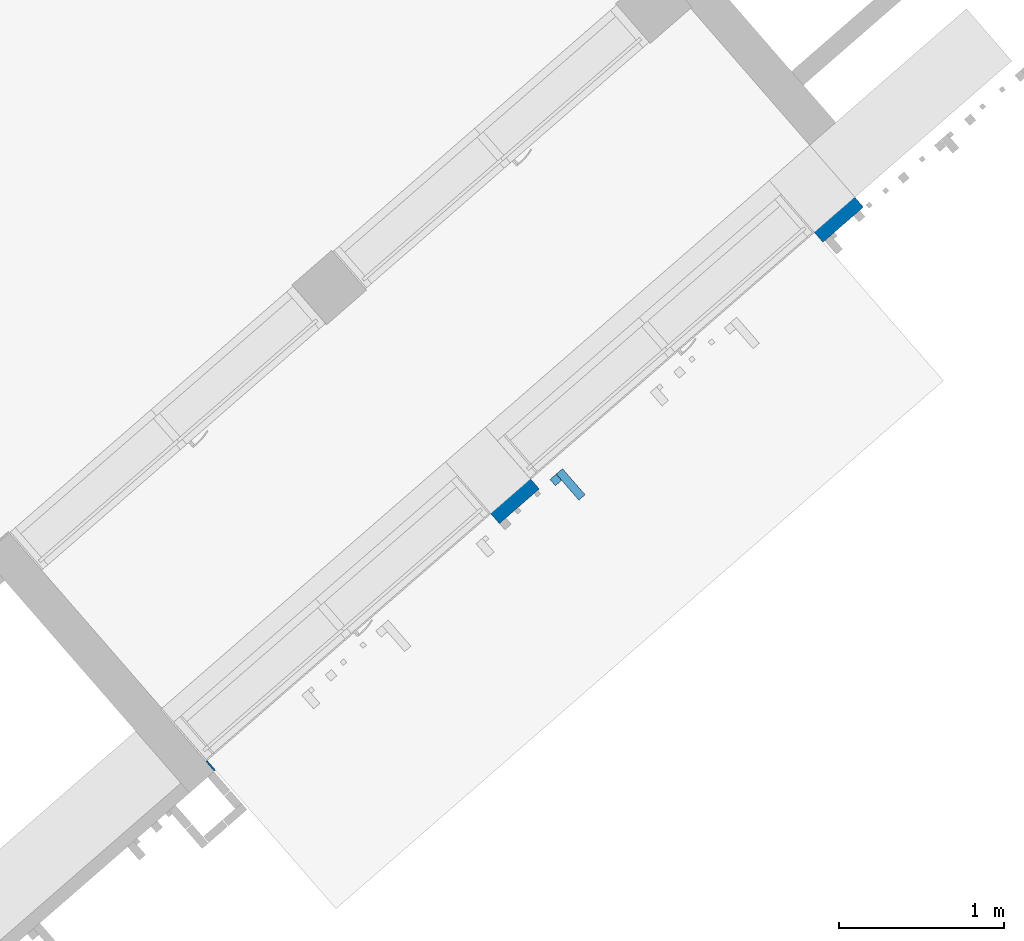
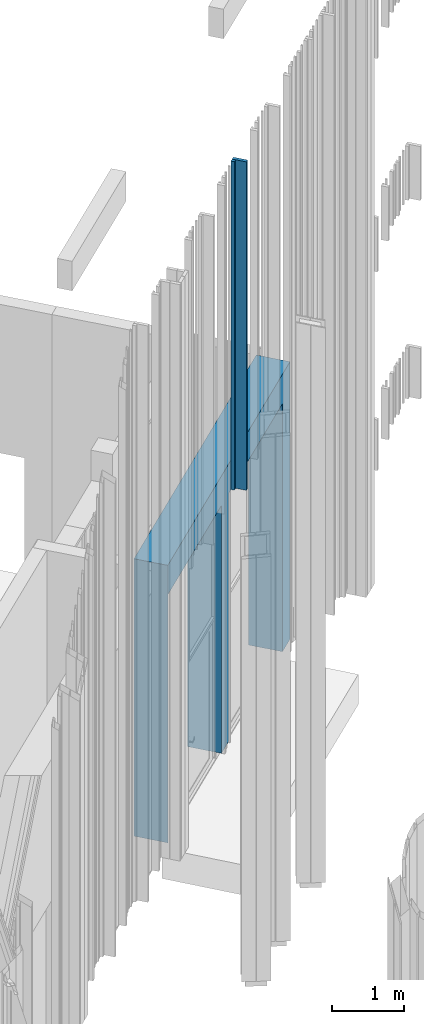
# One storey, part 206 of 390: 3 walls.
"""IFC2X3 building model written with IfcOpenShell, lengths in millimetres."""

from ifc_helpers import new_model, entity, si_unit, converted_unit, derived_unit, money_unit, direction, frame, origin_with_axes, place, context, subcontext, project, spatial, faceted_brep, material, material_list, type_object, element, save


model = new_model("IFC2X3")

# Units and contexts
model_context = context("Model", 3, precision=1e-05, world=origin_with_axes(), true_north=direction((0.0, 1.0)))
body_context = subcontext(model_context, "Body", "Model", "MODEL_VIEW")
ifc_project = project(units=[si_unit("LENGTHUNIT", "METRE", prefix="MILLI"), si_unit("AREAUNIT", "SQUARE_METRE"), si_unit("VOLUMEUNIT", "CUBIC_METRE"), converted_unit("PLANEANGLEUNIT", "DEGREE", entity("IfcPlaneAngleMeasure", 0.0174532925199), si_unit("PLANEANGLEUNIT", "RADIAN"), dimensions=[0, 0, 0, 0, 0, 0, 0]), si_unit("SOLIDANGLEUNIT", "STERADIAN"), money_unit("EUR"), converted_unit("TIMEUNIT", "Year", entity("IfcTimeMeasure", 31556926.0), si_unit("TIMEUNIT", "SECOND"), dimensions=[0, 0, 1, 0, 0, 0, 0]), si_unit("MASSUNIT", "GRAM", prefix="KILO"), si_unit("THERMODYNAMICTEMPERATUREUNIT", "DEGREE_CELSIUS"), si_unit("LUMINOUSINTENSITYUNIT", "LUMEN"), si_unit("ENERGYUNIT", "JOULE", prefix="MEGA"), derived_unit("THERMALCONDUCTANCEUNIT", [(si_unit("POWERUNIT", "WATT"), 1), (si_unit("LENGTHUNIT", "METRE"), -1), (si_unit("THERMODYNAMICTEMPERATUREUNIT", "KELVIN"), -1)]), derived_unit("SPECIFICHEATCAPACITYUNIT", [(si_unit("ENERGYUNIT", "JOULE"), 1), (si_unit("MASSUNIT", "GRAM", prefix="KILO"), -1), (si_unit("THERMODYNAMICTEMPERATUREUNIT", "KELVIN"), -1)]), derived_unit("MASSDENSITYUNIT", [(si_unit("MASSUNIT", "GRAM", prefix="KILO"), 1), (si_unit("VOLUMEUNIT", "CUBIC_METRE"), -1)])], contexts=[model_context])

# Site, building, storey
site_placement = place(None, origin_with_axes())
site = spatial("IfcSite", under=ifc_project, at=site_placement, Name="Site", CompositionType="ELEMENT")
building_placement = place(site_placement, origin_with_axes())
building = spatial("IfcBuilding", under=site, at=building_placement, Name="Building", CompositionType="ELEMENT")
storey_placement = place(building_placement, origin_with_axes())
storey = spatial("IfcBuildingStorey", under=building, at=storey_placement, Name="1 korrus", CompositionType="ELEMENT", Elevation=0.0)

# Walls
ifc_material_1 = material(Name="Puit - Konstruktsioon")
ifc_material_2 = material(Name="Õhkvahe")
ifc_material_3 = material(Name="Soojustus - Plastik Kõva")
ifc_material_4 = material(Name="Raudbetoon - Toode")
ifc_material_5 = material(Name="Krohv - Lubjakivi")
ifc_material_list = material_list([ifc_material_1, ifc_material_1, ifc_material_2, ifc_material_3, ifc_material_3, ifc_material_4, ifc_material_5])
wall_type_1 = type_object("IfcWallType", Name="VS-01", PredefinedType="NOTDEFINED")
wall_1_placement = place(storey_placement, frame((148483.867538, 74397.3302658, 100.0), z_axis=(0.0, 0.0, 1.0), x_axis=(-0.754709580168, -0.656059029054, 0.0)))
element("IfcWall", 1, at=wall_1_placement, inside=storey, type_object=wall_type_1, material=ifc_material_list, Name="VS-01", context=body_context, shape_type="Brep", body=[
    faceted_brep([(2605.00011329, 497.0, 0.0), (2605.00011329, 497.0, 4200.0), (325.000116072, 497.0, 4200.0), (325.000116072, 497.0, 0.0), (0.0, 497.0, 0.0), (0.0, 497.0, 4700.0), (5214.99989965, 497.0, 4700.0), (5214.99989965, 497.0, 0.0), (5204.99991344, 497.0, 0.0), (5204.99991344, 497.0, 4200.0), (2925.00011452, 497.0, 4200.0), (2925.00011452, 497.0, 0.0), (2605.00011329, 475.0, 0.0), (2605.00011329, 475.0, 4200.0), (325.000116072, 475.0, 4200.0), (325.000116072, 475.0, 0.0), (0.0, 475.0, 0.0), (0.0, 475.0, 4700.0), (5214.99990026, 475.0, 4700.0), (5214.99990026, 475.0, 0.0), (5204.99991344, 475.0, 0.0), (5204.99991344, 475.0, 4200.0), (2925.00011452, 475.0, 4200.0), (2925.00011452, 475.0, 0.0)], [[[0, 1, 2, 3, 4, 5, 6, 7, 8, 9, 10, 11]], [[1, 0, 12, 13]], [[2, 1, 13, 14]], [[3, 2, 14, 15]], [[3, 15, 16, 4]], [[17, 5, 4, 16]], [[17, 18, 6, 5]], [[18, 19, 7, 6]], [[8, 7, 19, 20]], [[8, 20, 21, 9]], [[9, 21, 22, 10]], [[10, 22, 23, 11]], [[12, 0, 11, 23]], [[13, 12, 23, 22, 21, 20, 19, 18, 17, 16, 15, 14]]]),
    faceted_brep([(2605.00011329, 475.0, 0.0), (2605.00011329, 475.0, 4200.0), (325.000116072, 475.0, 4200.0), (325.000116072, 475.0, 0.0), (0.0, 475.0, 0.0), (0.0, 475.0, 4700.0), (5214.99990026, 475.0, 4700.0), (5214.99990026, 475.0, 0.0), (5204.99991344, 475.0, 0.0), (5204.99991344, 475.0, 4200.0), (2925.00011452, 475.0, 4200.0), (2925.00011452, 475.0, 0.0), (2605.00011329, 455.0, 0.0), (2605.00011329, 455.0, 4200.0), (325.000116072, 455.0, 4200.0), (325.000116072, 455.0, 0.0), (0.0, 455.0, 0.0), (0.0, 455.0, 4700.0), (5214.99990081, 455.0, 4700.0), (5214.99990081, 455.0, 0.0), (5204.99991344, 455.0, 0.0), (5204.99991344, 455.0, 4200.0), (2925.00011452, 455.0, 4200.0), (2925.00011452, 455.0, 0.0)], [[[0, 1, 2, 3, 4, 5, 6, 7, 8, 9, 10, 11]], [[1, 0, 12, 13]], [[2, 1, 13, 14]], [[3, 2, 14, 15]], [[3, 15, 16, 4]], [[17, 5, 4, 16]], [[17, 18, 6, 5]], [[18, 19, 7, 6]], [[8, 7, 19, 20]], [[8, 20, 21, 9]], [[9, 21, 22, 10]], [[10, 22, 23, 11]], [[12, 0, 11, 23]], [[13, 12, 23, 22, 21, 20, 19, 18, 17, 16, 15, 14]]]),
    faceted_brep([(2605.00011329, 455.0, 0.0), (2605.00011329, 455.0, 4200.0), (325.000116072, 455.0, 4200.0), (325.000116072, 455.0, 0.0), (0.0, 455.0, 0.0), (0.0, 455.0, 4700.0), (5214.99990081, 455.0, 4700.0), (5214.99990081, 455.0, 0.0), (5204.99991344, 455.0, 0.0), (5204.99991344, 455.0, 4200.0), (2925.00011452, 455.0, 4200.0), (2925.00011452, 455.0, 0.0), (2605.00011329, 410.0, 0.0), (2605.00011329, 410.0, 4200.0), (325.000116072, 410.0, 4200.0), (325.000116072, 410.0, 0.0), (0.0, 410.0, 0.0), (0.0, 410.0, 4700.0), (5214.99990206, 410.0, 4700.0), (5214.99990206, 410.0, 0.0), (5204.99991344, 410.0, 0.0), (5204.99991344, 410.0, 4200.0), (2925.00011452, 410.0, 4200.0), (2925.00011452, 410.0, 0.0)], [[[0, 1, 2, 3, 4, 5, 6, 7, 8, 9, 10, 11]], [[1, 0, 12, 13]], [[2, 1, 13, 14]], [[3, 2, 14, 15]], [[3, 15, 16, 4]], [[17, 5, 4, 16]], [[17, 18, 6, 5]], [[18, 19, 7, 6]], [[8, 7, 19, 20]], [[8, 20, 21, 9]], [[9, 21, 22, 10]], [[10, 22, 23, 11]], [[12, 0, 11, 23]], [[13, 12, 23, 22, 21, 20, 19, 18, 17, 16, 15, 14]]]),
    faceted_brep([(2605.00011329, 410.0, 0.0), (2605.00011329, 410.0, 4200.0), (325.000116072, 410.0, 4200.0), (325.000116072, 410.0, 0.0), (0.0, 410.0, 0.0), (0.0, 410.0, 4700.0), (5214.99990206, 410.0, 4700.0), (5214.99990206, 410.0, 0.0), (5204.99991344, 410.0, 0.0), (5204.99991344, 410.0, 4200.0), (2925.00011452, 410.0, 4200.0), (2925.00011452, 410.0, 0.0), (2605.00011329, 360.0, 0.0), (2605.00011329, 360.0, 4200.0), (325.000116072, 360.0, 4200.0), (325.000116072, 360.0, 0.0), (0.0, 360.0, 0.0), (0.0, 360.0, 4700.0), (5214.99990345, 360.0, 4700.0), (5214.99990345, 360.0, 0.0), (5204.99991344, 360.0, 0.0), (5204.99991344, 360.0, 4200.0), (2925.00011452, 360.0, 4200.0), (2925.00011452, 360.0, 0.0)], [[[0, 1, 2, 3, 4, 5, 6, 7, 8, 9, 10, 11]], [[1, 0, 12, 13]], [[2, 1, 13, 14]], [[3, 2, 14, 15]], [[3, 15, 16, 4]], [[17, 5, 4, 16]], [[17, 18, 6, 5]], [[18, 19, 7, 6]], [[8, 7, 19, 20]], [[8, 20, 21, 9]], [[9, 21, 22, 10]], [[10, 22, 23, 11]], [[12, 0, 11, 23]], [[13, 12, 23, 22, 21, 20, 19, 18, 17, 16, 15, 14]]]),
    faceted_brep([(2605.00011329, 360.0, 0.0), (2605.00011329, 360.0, 4200.0), (325.000116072, 360.0, 4200.0), (325.000116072, 360.0, 0.0), (0.0, 360.0, 0.0), (0.0, 360.0, 4700.0), (5214.99990345, 360.0, 4700.0), (5214.99990345, 360.0, 0.0), (5204.99991344, 360.0, 0.0), (5204.99991344, 360.0, 4200.0), (2925.00011452, 360.0, 4200.0), (2925.00011452, 360.0, 0.0), (2605.00011329, 210.0, 0.0), (2605.00011329, 210.0, 4200.0), (325.000116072, 210.0, 4200.0), (325.000116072, 210.0, 0.0), (0.0, 210.0, 0.0), (0.0, 210.0, 4700.0), (5214.99990761, 210.0, 4700.0), (5214.99990761, 210.0, 0.0), (5204.99991344, 210.0, 0.0), (5204.99991344, 210.0, 4200.0), (2925.00011452, 210.0, 4200.0), (2925.00011452, 210.0, 0.0)], [[[0, 1, 2, 3, 4, 5, 6, 7, 8, 9, 10, 11]], [[1, 0, 12, 13]], [[2, 1, 13, 14]], [[3, 2, 14, 15]], [[3, 15, 16, 4]], [[17, 5, 4, 16]], [[17, 18, 6, 5]], [[18, 19, 7, 6]], [[8, 7, 19, 20]], [[8, 20, 21, 9]], [[9, 21, 22, 10]], [[10, 22, 23, 11]], [[12, 0, 11, 23]], [[13, 12, 23, 22, 21, 20, 19, 18, 17, 16, 15, 14]]]),
    faceted_brep([(2605.00011329, 210.0, 0.0), (2605.00011329, 210.0, 4200.0), (325.000116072, 210.0, 4200.0), (325.000116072, 210.0, 0.0), (0.0, 210.0, 0.0), (0.0, 210.0, 4700.0), (5214.99990761, 210.0, 4700.0), (5214.99990761, 210.0, 0.0), (5204.99991344, 210.0, 0.0), (5204.99991344, 210.0, 4200.0), (2925.00011452, 210.0, 4200.0), (2925.00011452, 210.0, 0.0), (2605.00011329, 10.0, 0.0), (2605.00011329, 10.0, 4200.0), (325.000116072, 10.0, 4200.0), (325.000116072, 10.0, 0.0), (0.0, 10.0, 0.0), (0.0, 10.0, 4700.0), (5214.99991316, 10.0, 4700.0), (5214.99991316, 10.0, 0.0), (5204.99991344, 10.0, 0.0), (5204.99991344, 10.0, 4200.0), (2925.00011452, 10.0, 4200.0), (2925.00011452, 10.0, 0.0)], [[[0, 1, 2, 3, 4, 5, 6, 7, 8, 9, 10, 11]], [[1, 0, 12, 13]], [[2, 1, 13, 14]], [[3, 2, 14, 15]], [[3, 15, 16, 4]], [[17, 5, 4, 16]], [[17, 18, 6, 5]], [[18, 19, 7, 6]], [[8, 7, 19, 20]], [[8, 20, 21, 9]], [[9, 21, 22, 10]], [[10, 22, 23, 11]], [[12, 0, 11, 23]], [[13, 12, 23, 22, 21, 20, 19, 18, 17, 16, 15, 14]]]),
    faceted_brep([(2605.00011329, 10.0, 0.0), (2605.00011329, 10.0, 4200.0), (325.000116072, 10.0, 4200.0), (325.000116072, 10.0, 0.0), (0.0, 10.0, 0.0), (0.0, 10.0, 4700.0), (5214.99991316, 10.0, 4700.0), (5214.99991316, 10.0, 0.0), (5204.99991344, 10.0, 0.0), (5204.99991344, 10.0, 4200.0), (2925.00011452, 10.0, 4200.0), (2925.00011452, 10.0, 0.0), (2605.00011329, 0.0, 0.0), (2605.00011329, 0.0, 4200.0), (325.000116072, 0.0, 4200.0), (325.000116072, 0.0, 0.0), (0.0, 0.0, 0.0), (0.0, 0.0, 4700.0), (5214.99991344, 0.0, 4700.0), (5214.99991344, 0.0, 0.0), (5204.99991344, 0.0, 0.0), (5204.99991344, 0.0, 4200.0), (2925.00011452, 0.0, 4200.0), (2925.00011452, 0.0, 0.0)], [[[0, 1, 2, 3, 4, 5, 6, 7, 8, 9, 10, 11]], [[1, 0, 12, 13]], [[2, 1, 13, 14]], [[3, 2, 14, 15]], [[3, 15, 16, 4]], [[17, 5, 4, 16]], [[17, 18, 6, 5]], [[18, 19, 7, 6]], [[8, 7, 19, 20]], [[8, 20, 21, 9]], [[9, 21, 22, 10]], [[10, 22, 23, 11]], [[12, 0, 11, 23]], [[13, 12, 23, 22, 21, 20, 19, 18, 17, 16, 15, 14]]]),
])
ifc_material_6 = material(Name="Site specified")
wall_type_2 = type_object("IfcWallType", Name="Puitfassaadi ribistik", PredefinedType="NOTDEFINED")
wall_2_placement = place(storey_placement, frame((147034.731536, 72340.6202427, 4300.0), z_axis=(0.0, 0.0, 1.0), x_axis=(-0.754709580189, -0.65605902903, 0.0)))
element("IfcWall", 2, at=wall_2_placement, inside=storey, type_object=wall_type_2, material=ifc_material_6, Name="Site specified", context=body_context, shape_type="Brep", body=[
    faceted_brep([(-25.0, -104.5, 5565.0), (-25.0, -104.5, 0.0), (25.0, -104.5, 0.0), (25.0, -104.5, 5565.0), (-25.0, 104.5, 5565.0), (-25.0, 104.5, 0.0), (25.0, 104.5, 0.0), (25.0, 104.5, 5565.0)], [[[0, 1, 2, 3]], [[4, 5, 1, 0]], [[2, 1, 5, 6]], [[3, 2, 6, 7]], [[4, 0, 3, 7]], [[7, 6, 5, 4]]]),
])
wall_3_placement = place(storey_placement, frame((146944.839365, 72367.8167029, 4300.0), z_axis=(0.0, 0.0, 1.0), x_axis=(-0.754709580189, -0.65605902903, 0.0)))
element("IfcWall", 3, at=wall_3_placement, inside=storey, type_object=wall_type_2, material=ifc_material_6, Name="Site specified", context=body_context, shape_type="Brep", body=[
    faceted_brep([(-25.0, -25.0, 5565.0), (-25.0, -25.0, 0.0), (25.0, -25.0, 0.0), (25.0, -25.0, 5565.0), (-25.0, 25.0, 5565.0), (-25.0, 25.0, 0.0), (25.0, 25.0, 0.0), (25.0, 25.0, 5565.0)], [[[0, 1, 2, 3]], [[4, 5, 1, 0]], [[2, 1, 5, 6]], [[3, 2, 6, 7]], [[4, 0, 3, 7]], [[7, 6, 5, 4]]]),
])

save(model, "model.ifc")
